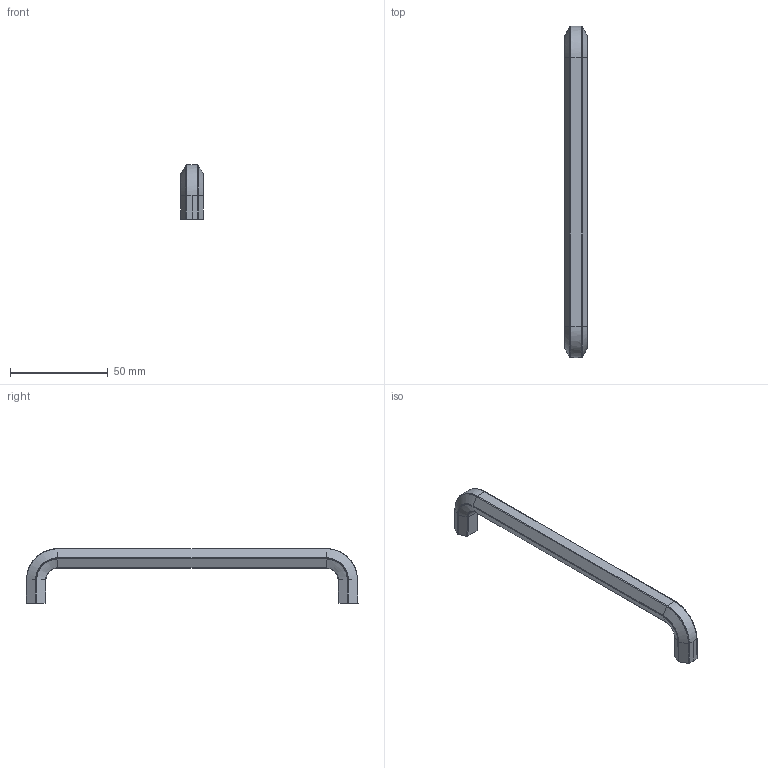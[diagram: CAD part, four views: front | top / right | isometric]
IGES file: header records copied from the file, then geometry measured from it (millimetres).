
Start section: C
Global section: file name: 8273-170_R150.igs; native system: By Siemens PLM Incorporated; preprocessor: XPlus GENERIC/IGES 16.0.42; author: Author; organization: Title; date: 20220504.152617; units: millimetre
Bounding box: 11.5 x 170.13 x 28.01 mm (x, y, z)
Surface area: 7834.3 mm2 (no closed solid volume)
Topology: 0 solids, 0 shells, 80 faces, 364 edges, 364 vertices
Faces by surface type: bspline 80
